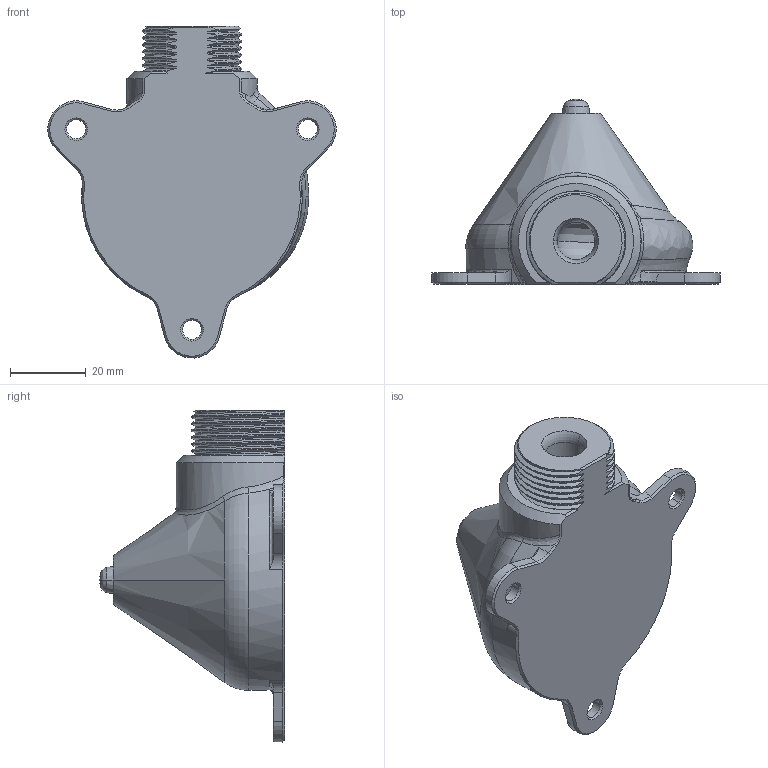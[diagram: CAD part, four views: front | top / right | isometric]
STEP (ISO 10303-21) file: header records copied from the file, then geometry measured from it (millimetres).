
FILE_DESCRIPTION((''),'2;1');
FILE_NAME('IRRIGATORE','2025-06-29T16:12:06',('andre'),(''),'CREO PARAMETRIC BY PTC INC, 2022073','CREO PARAMETRIC BY PTC INC, 2022073','');
FILE_SCHEMA(('CONFIG_CONTROL_DESIGN'));
Length unit declared in the file: millimetre
Products named in the file (1): IRRIGATORE
Bounding box: 76.22 x 48.98 x 87.85 mm (x, y, z)
Volume: 56281.7 mm3; surface area: 23074.5 mm2
Topology: 1 solids, 2 shells, 172 faces, 451 edges, 278 vertices
Faces by surface type: bspline 59, cylinder 40, cone 30, plane 28, torus 13, sphere 2
Entity records: 12535 total; most frequent: CARTESIAN_POINT 8701, ORIENTED_EDGE 886, DIRECTION 650, EDGE_CURVE 448, VERTEX_POINT 278, AXIS2_PLACEMENT_3D 257, EDGE_LOOP 180, FACE_OUTER_BOUND 172
